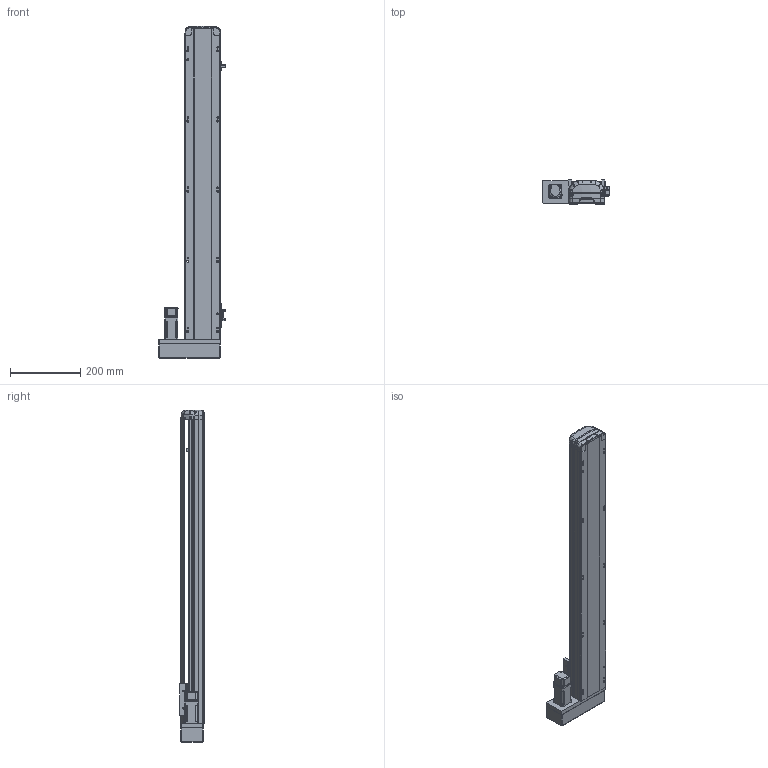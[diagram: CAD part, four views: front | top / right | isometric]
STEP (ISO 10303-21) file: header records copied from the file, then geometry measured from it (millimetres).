
FILE_DESCRIPTION (( 'STEP AP214' ), '1' );
FILE_NAME ('RTH10-XX-700-L-M10-C4.STEP', '2025-10-25T05:36:31', ( 'Microsoft' ), ( 'Microsoft' ), 'SwSTEP 2.0', 'SolidWorks 2018', '' );
FILE_SCHEMA (( 'AUTOMOTIVE_DESIGN' ));
Length unit declared in the file: millimetre
Products named in the file (10): N_RTH12-M-011P-臏倰第菁釱^RTH10-XX-XX-L-M10-C4; N_RTH12-GY-001P^RTH10-XX-XX-L-M10-C4; N_RTH12-L-018-裔赽^RTH10-XX-XX-L-M10-C4; N_P10^RTH10-XX-XX-L-M10-C4; N_OMRON EE-SX672 传感器^RTH10-XX-XX-L-M10-C4; N_RTH13-L-012覜茼え俋离^RTH10-XX-XX-L-M10-C4; N_RTH12-GY-004-賑釱^RTH10-XX-XX-L-M10-C4; RTH10-XX-700-L-M10-C4; N_RTH12-L-008萇儂啣^RTH10-XX-XX-L-M10-C4; N_RTH12-M-007P-奻裔^RTH10-XX-XX-L-M10-C4
Assembly tree (11 placements, depth 2):
  RTH10-XX-700-L-M10-C4
    N_RTH12-M-011P-臏倰第菁釱^RTH10-XX-XX-L-M10-C4
    N_RTH13-L-012覜茼え俋离^RTH10-XX-XX-L-M10-C4
    N_OMRON EE-SX672 传感器^RTH10-XX-XX-L-M10-C4  x3
    N_P10^RTH10-XX-XX-L-M10-C4
    N_RTH12-M-007P-奻裔^RTH10-XX-XX-L-M10-C4
    N_RTH12-L-008萇儂啣^RTH10-XX-XX-L-M10-C4
    N_RTH12-L-018-裔赽^RTH10-XX-XX-L-M10-C4
    N_RTH12-GY-004-賑釱^RTH10-XX-XX-L-M10-C4
    N_RTH12-GY-001P^RTH10-XX-XX-L-M10-C4
Bounding box: 190 x 70 x 947.14 mm (x, y, z)
Volume: 4114571.8 mm3; surface area: 632020.4 mm2
Topology: 10 solids, 12 shells, 1920 faces, 5356 edges, 3513 vertices
Faces by surface type: plane 947, bspline 472, cylinder 466, cone 29, sphere 4, torus 2
Entity records: 57748 total; most frequent: CARTESIAN_POINT 23089, ORIENTED_EDGE 7784, DIRECTION 5958, EDGE_CURVE 3898, VERTEX_POINT 2557, VECTOR 2042, LINE 2042, AXIS2_PLACEMENT_3D 1958
